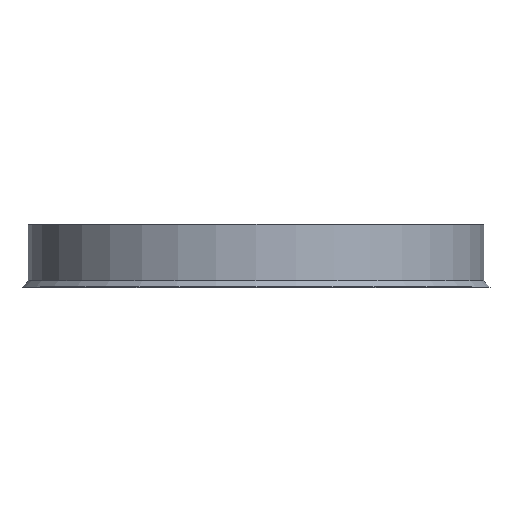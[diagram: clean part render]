
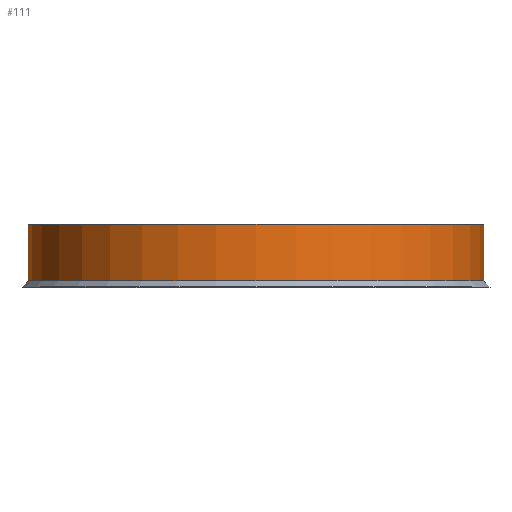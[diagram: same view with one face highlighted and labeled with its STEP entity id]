
A CAD part, top view. The second image highlights one B-rep face of the part: STEP entity #111.
In plain terms, the highlighted cylindrical face has radius 36.55 mm (diameter 73.1 mm), a full revolution.
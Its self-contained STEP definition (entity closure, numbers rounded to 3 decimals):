
#20=CYLINDRICAL_SURFACE('',#149,36.55);
#27=FACE_OUTER_BOUND('',#36,.T.);
#36=EDGE_LOOP('',(#97,#98,#99,#100,#101));
#41=LINE('',#215,#46);
#46=VECTOR('',#186,36.55);
#50=CIRCLE('',#141,36.55);
#53=CIRCLE('',#147,36.55);
#54=CIRCLE('',#148,36.55);
#58=VERTEX_POINT('',#199);
#61=VERTEX_POINT('',#209);
#62=VERTEX_POINT('',#210);
#68=EDGE_CURVE('',#58,#58,#50,.T.);
#72=EDGE_CURVE('',#61,#62,#53,.T.);
#74=EDGE_CURVE('',#62,#61,#54,.T.);
#75=EDGE_CURVE('',#58,#62,#41,.T.);
#97=ORIENTED_EDGE('',*,*,#68,.F.);
#98=ORIENTED_EDGE('',*,*,#75,.T.);
#99=ORIENTED_EDGE('',*,*,#74,.T.);
#100=ORIENTED_EDGE('',*,*,#72,.T.);
#101=ORIENTED_EDGE('',*,*,#75,.F.);
#111=ADVANCED_FACE('',(#27),#20,.T.);
#141=AXIS2_PLACEMENT_3D('',#200,#166,#167);
#147=AXIS2_PLACEMENT_3D('',#211,#179,#180);
#148=AXIS2_PLACEMENT_3D('',#213,#182,#183);
#149=AXIS2_PLACEMENT_3D('',#214,#184,#185);
#166=DIRECTION('center_axis',(0.,1.,0.));
#167=DIRECTION('ref_axis',(-1.,0.,0.));
#179=DIRECTION('center_axis',(0.,1.,0.));
#180=DIRECTION('ref_axis',(-1.,0.,0.));
#182=DIRECTION('center_axis',(0.,1.,0.));
#183=DIRECTION('ref_axis',(-1.,0.,0.));
#184=DIRECTION('center_axis',(0.,1.,0.));
#185=DIRECTION('ref_axis',(-1.,0.,0.));
#186=DIRECTION('',(0.,-1.,0.));
#199=CARTESIAN_POINT('',(36.55,10.,0.));
#200=CARTESIAN_POINT('Origin',(0.,10.,0.));
#209=CARTESIAN_POINT('',(-36.55,1.,0.));
#210=CARTESIAN_POINT('',(36.55,1.,0.));
#211=CARTESIAN_POINT('Origin',(0.,1.,0.));
#213=CARTESIAN_POINT('Origin',(0.,1.,0.));
#214=CARTESIAN_POINT('Origin',(0.,0.,0.));
#215=CARTESIAN_POINT('',(36.55,0.,0.));
